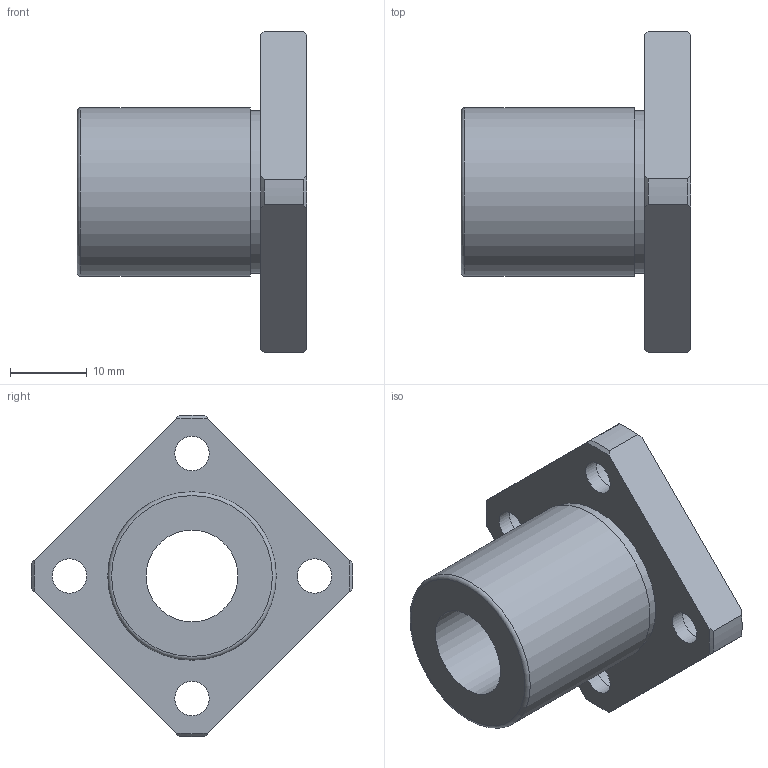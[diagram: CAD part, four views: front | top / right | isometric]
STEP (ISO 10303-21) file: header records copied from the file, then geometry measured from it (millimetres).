
FILE_DESCRIPTION(('STEP AP203'),'1');
FILE_NAME('//192.168.1.1/share/s-4 技術開発/s-4-4_CAD/s-4-4-3_見直し済み/002 修正済み/NF-V/NF-12VUU.step','2022-03-08T06:42:53',(' '),(' '),'Spatial InterOp 3D',' ',' ');
FILE_SCHEMA(('CONFIG_CONTROL_DESIGN'));
Length unit declared in the file: millimetre
Products named in the file (1): 1
Bounding box: 30 x 41.98 x 41.98 mm (x, y, z)
Volume: 10924.2 mm3; surface area: 5712.6 mm2
Topology: 1 solids, 1 shells, 36 faces, 86 edges, 58 vertices
Faces by surface type: cylinder 15, plane 12, cone 8, torus 1
Full cylindrical faces by diameter (mm): 4.5 x4, 7.5 x4, 12 x1, 21.3 x1, 22 x1
Entity records: 1026 total; most frequent: CARTESIAN_POINT 195, DIRECTION 168, ORIENTED_EDGE 142, AXIS2_PLACEMENT_3D 76, EDGE_CURVE 71, EDGE_LOOP 64, VERTEX_POINT 55, FACE_OUTER_BOUND 48
